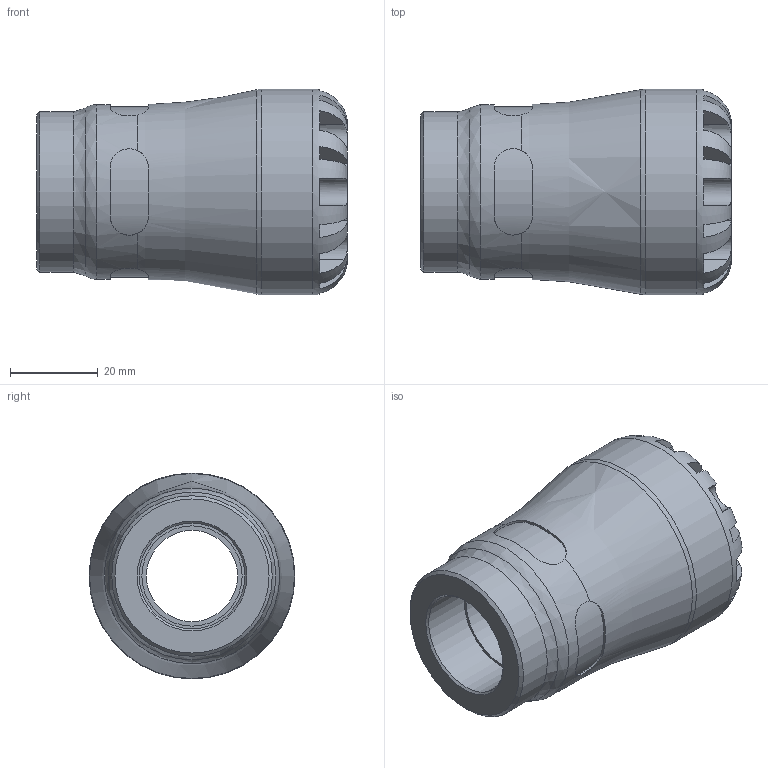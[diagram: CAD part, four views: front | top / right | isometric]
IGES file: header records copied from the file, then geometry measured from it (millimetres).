
Global section: file name: 1003G0025007_1903G0025007.ipt; native system: Autodesk Inventor 2015; preprocessor: unknown; author: KIM; date: 20190127.091351; units: millimetre
Bounding box: 71 x 47 x 47 mm (x, y, z)
Volume: 63141.4 mm3; surface area: 17724.6 mm2
Topology: 1 solids, 1 shells, 104 faces, 279 edges, 180 vertices
Faces by surface type: plane 61, revolution 27, cylinder 15, cone 1
Full cylindrical faces by diameter (mm): 36.66 x1, 39.95 x1, 47 x1
